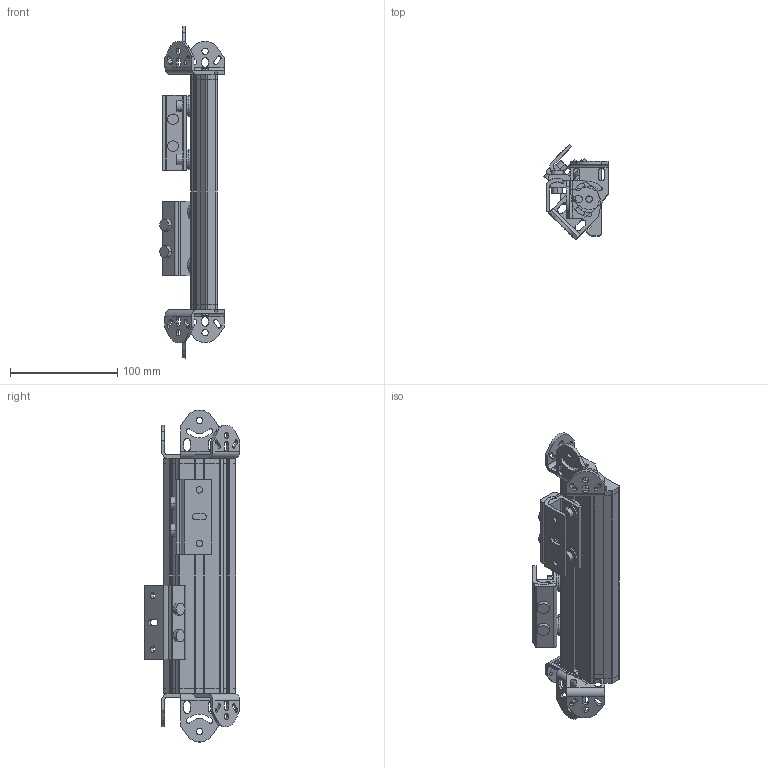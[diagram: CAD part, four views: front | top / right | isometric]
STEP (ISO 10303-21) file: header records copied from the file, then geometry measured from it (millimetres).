
FILE_DESCRIPTION((''),'2;1');
FILE_NAME('UM60-150.stp','2007-11-21T13:49:08',(''),(''),'Mechanical Desktop 2008','Mechanical Desktop 2008',', , ');
FILE_SCHEMA(('CONFIG_CONTROL_DESIGN'));
Length unit declared in the file: millimetre
Products named in the file (11): UM60-XXX; SCHWENKWINKEL; 347901-3D-; 347902-3D-; 347903-3D-; M6-GEWINDEBUCHSE; MESSING-BUCHSE; UM60-WINKEL; PROFIL-N; DECKEL_N; ~DECKEL_N
Assembly tree (18 placements, depth 3):
  UM60-XXX
    SCHWENKWINKEL  x2
      347901-3D-
      347902-3D-
      347903-3D-
      M6-GEWINDEBUCHSE
      MESSING-BUCHSE
    UM60-WINKEL  x6
    PROFIL-N
    DECKEL_N
    ~DECKEL_N
Bounding box: 59.88 x 89.1 x 310 mm (x, y, z)
Volume: 337965.2 mm3; surface area: 133502.3 mm2
Topology: 23 solids, 23 shells, 588 faces, 1616 edges, 1088 vertices
Faces by surface type: cylinder 298, plane 290
Entity records: 9123 total; most frequent: CARTESIAN_POINT 1774, DIRECTION 1510, ORIENTED_EDGE 1468, EDGE_CURVE 734, VECTOR 510, LINE 510, AXIS2_PLACEMENT_3D 500, VERTEX_POINT 492
